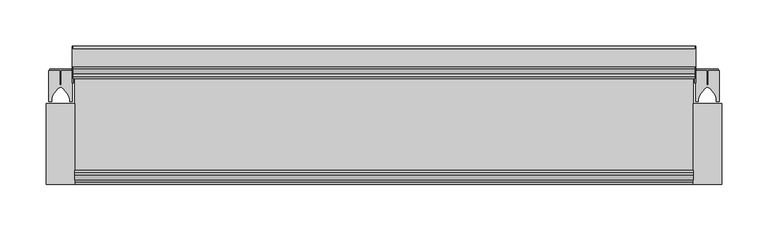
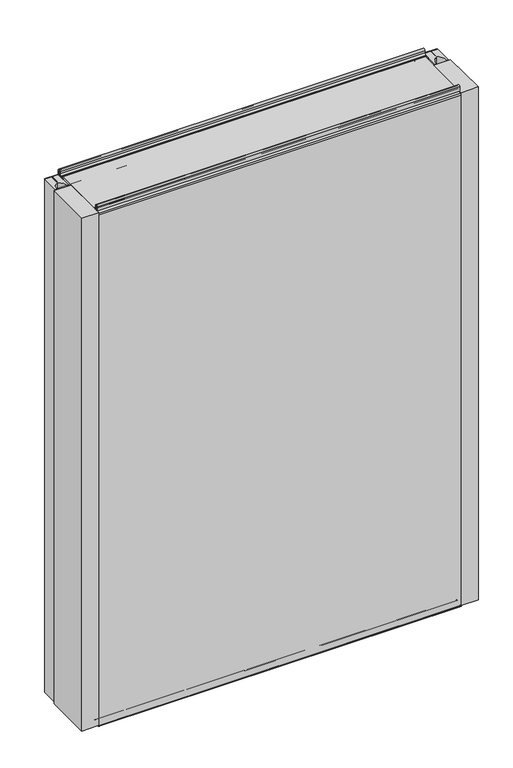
"""IFC4 building model written with IfcOpenShell, lengths in millimetres: plate geometry, Fronttop : Fronttop 150/1000."""

from ifc_helpers import new_model, si_unit, point, frame, frame_2d, origin, origin_with_axes, place, context, project, spatial, polyline, circle_curve, trimmed, segment, composite_curve, outline, extrude, source, transform, mapped, element, save
from ifc_brep_helpers import plane_surface, cylinder_surface, revolved_surface, advanced_brep


def plate_193a82d2(model_context):
    return source(origin(), model_context, "Body", "SolidModel", [
        advanced_brep(
        [(-336.5, 124.0, 1008.0), (-336.5, 121.0, 1008.0), (-336.5, 121.0, 1004.0), (-336.5, 117.0, 1000.0), (-336.5, 115.0, 1000.0), (-336.5, 115.0, 1001.0), (-336.5, 117.0, 1001.0), (-336.5, 120.0, 1004.0), (-336.5, 120.0, 1008.0), (-336.5, 125.0, 1008.0), (-336.5, 125.0, 1000.0), (-336.5, 124.0, 1000.0), (336.5, 125.0, 1008.0), (336.5, 120.0, 1008.0), (336.5, 120.0, 1004.0), (336.5, 117.0, 1001.0), (336.5, 115.0, 1001.0), (336.5, 115.0, 1000.0), (336.5, 117.0, 1000.0), (336.5, 121.0, 1004.0), (336.5, 121.0, 1008.0), (336.5, 124.0, 1008.0), (336.5, 124.0, 1000.0), (336.5, 125.0, 1000.0), (-336.5, 117.0, 2.0), (336.5, 117.0, 2.0), (336.5, 115.0, 2.0), (-336.5, 115.0, 2.0), (-336.5, 119.0, 4.0), (336.5, 119.0, 4.0), (-336.5, 119.0, 8.0), (336.5, 119.0, 8.0), (-336.5, 126.0, 8.0), (336.5, 126.0, 8.0), (-336.5, 126.0, 0.0), (336.5, 126.0, 0.0), (-336.5, 129.0, -3.0), (336.5, 129.0, -3.0), (-336.5, 125.0, -3.0), (-337.5, 125.0, -3.0), (-337.5, 147.0, -3.0), (-336.5, 147.0, -3.0), (336.5, 147.0, -3.0), (337.5, 147.0, -3.0), (337.5, 125.0, -3.0), (336.5, 125.0, -3.0), (-336.5, 150.0, 0.0), (336.5, 150.0, 0.0), (-337.5, 150.0, 0.0), (-337.5, 150.0, 969.0), (-336.5, 150.0, 969.0), (336.5, 150.0, 969.0), (337.5, 150.0, 969.0), (337.5, 150.0, 0.0), (-336.5, 147.0, 972.0), (336.5, 147.0, 972.0), (-337.5, 147.0, 972.0), (-337.5, 128.0, 972.0), (-336.5, 128.0, 972.0), (336.5, 128.0, 972.0), (337.5, 128.0, 972.0), (337.5, 147.0, 972.0), (-336.5, 125.0, 975.0), (336.5, 125.0, 975.0), (-337.5, 125.0, 975.0), (-337.5, 125.0, 1000.0), (337.5, 125.0, 1000.0), (337.5, 125.0, 975.0), (-336.5, 124.0, 975.0), (336.5, 124.0, 975.0), (-336.5, 128.0, 971.0), (336.5, 128.0, 971.0), (-336.5, 147.0, 971.0), (336.5, 147.0, 971.0), (-336.5, 149.0, 969.0), (336.5, 149.0, 969.0), (-336.5, 149.0, 0.0), (336.5, 149.0, 0.0), (-336.5, 147.0, -2.0), (336.5, 147.0, -2.0), (-336.5, 129.0, -2.0), (336.5, 129.0, -2.0), (-336.5, 127.0, 0.0), (336.5, 127.0, 0.0), (-336.5, 127.0, 8.0), (336.5, 127.0, 8.0), (-336.5, 118.0, 8.0), (336.5, 118.0, 8.0), (-336.5, 118.0, 4.0), (336.5, 118.0, 4.0), (-336.5, 117.0, 3.0), (336.5, 117.0, 3.0), (-336.5, 115.0, 3.0), (336.5, 115.0, 3.0), (337.5, 110.0, 1000.0), (337.5, 110.0, 0.0), (337.5, 125.0, 0.0), (336.5, 125.0, 0.0), (336.5, 110.0, 0.0), (336.5, 110.0, 1000.0), (-337.5, 125.0, 0.0), (-337.5, 110.0, 0.0), (-337.5, 110.0, 1000.0), (-336.5, 110.0, 1000.0), (-336.5, 110.0, 0.0), (-336.5, 125.0, 0.0)],
        [
            (0, 1, circle_curve(frame((-336.5, 122.5, 1008.0), z_axis=(1.0, 0.0, 0.0), x_axis=(0.0, -1.0, 0.0)), 1.5)),
            (1, 2),
            (2, 3, circle_curve(frame((-336.5, 117.0, 1004.0), z_axis=(-1.0, 0.0, 0.0), x_axis=(0.0, -1.0, 0.0)), 4.0)),
            (3, 4),
            (4, 5),
            (5, 6),
            (6, 7, circle_curve(frame((-336.5, 117.0, 1004.0), z_axis=(1.0, 0.0, 0.0), x_axis=(0.0, -1.0, 0.0)), 3.0)),
            (7, 8),
            (8, 9, circle_curve(frame((-336.5, 122.5, 1008.0), z_axis=(-1.0, 0.0, 0.0), x_axis=(0.0, -1.0, 0.0)), 2.5)),
            (9, 10),
            (10, 11),
            (11, 0),
            (12, 13, circle_curve(frame((336.5, 122.5, 1008.0), z_axis=(1.0, 0.0, 0.0), x_axis=(0.0, -1.0, 0.0)), 2.5)),
            (13, 14),
            (14, 15, circle_curve(frame((336.5, 117.0, 1004.0), z_axis=(-1.0, 0.0, 0.0), x_axis=(0.0, -1.0, 0.0)), 3.0)),
            (15, 16),
            (16, 17),
            (17, 18),
            (18, 19, circle_curve(frame((336.5, 117.0, 1004.0), z_axis=(1.0, 0.0, 0.0), x_axis=(0.0, -1.0, 0.0)), 4.0)),
            (19, 20),
            (20, 21, circle_curve(frame((336.5, 122.5, 1008.0), z_axis=(-1.0, 0.0, 0.0), x_axis=(0.0, -1.0, 0.0)), 1.5)),
            (21, 22),
            (22, 23),
            (23, 12),
            (24, 25),
            (25, 26),
            (26, 27),
            (27, 24),
            (24, 28, circle_curve(frame((-336.5, 117.0, 4.0), z_axis=(1.0, 0.0, 0.0), x_axis=(0.0, -1.0, 0.0)), 2.0)),
            (28, 29),
            (29, 25, circle_curve(frame((336.5, 117.0, 4.0), z_axis=(-1.0, 0.0, 0.0), x_axis=(0.0, -1.0, 0.0)), 2.0)),
            (28, 30),
            (30, 31),
            (31, 29),
            (30, 32, circle_curve(frame((-336.5, 122.5, 8.0), z_axis=(-1.0, 0.0, 0.0), x_axis=(0.0, -1.0, 0.0)), 3.5)),
            (32, 33),
            (33, 31, circle_curve(frame((336.5, 122.5, 8.0), z_axis=(1.0, 0.0, 0.0), x_axis=(0.0, -1.0, 0.0)), 3.5)),
            (32, 34),
            (34, 35),
            (35, 33),
            (34, 36, circle_curve(frame((-336.5, 129.0, 0.0), z_axis=(1.0, 0.0, 0.0), x_axis=(0.0, -1.0, 0.0)), 3.0)),
            (36, 37),
            (37, 35, circle_curve(frame((336.5, 129.0, 0.0), z_axis=(-1.0, 0.0, 0.0), x_axis=(0.0, -1.0, 0.0)), 3.0)),
            (36, 38),
            (38, 39),
            (39, 40),
            (40, 41),
            (41, 42),
            (42, 43),
            (43, 44),
            (44, 45),
            (45, 37),
            (41, 46, circle_curve(frame((-336.5, 147.0, 0.0), z_axis=(1.0, 0.0, 0.0), x_axis=(0.0, -1.0, 0.0)), 3.0)),
            (46, 47),
            (47, 42, circle_curve(frame((336.5, 147.0, 0.0), z_axis=(-1.0, 0.0, 0.0), x_axis=(0.0, -1.0, 0.0)), 3.0)),
            (46, 48),
            (48, 49),
            (49, 50),
            (50, 51),
            (51, 52),
            (52, 53),
            (53, 47),
            (50, 54, circle_curve(frame((-336.5, 147.0, 969.0), z_axis=(1.0, 0.0, 0.0), x_axis=(0.0, -1.0, 0.0)), 3.0)),
            (54, 55),
            (55, 51, circle_curve(frame((336.5, 147.0, 969.0), z_axis=(-1.0, 0.0, 0.0), x_axis=(0.0, -1.0, 0.0)), 3.0)),
            (54, 56),
            (56, 57),
            (57, 58),
            (58, 59),
            (59, 60),
            (60, 61),
            (61, 55),
            (58, 62, circle_curve(frame((-336.5, 128.0, 975.0), z_axis=(-1.0, 0.0, 0.0), x_axis=(0.0, -1.0, 0.0)), 3.0)),
            (62, 63),
            (63, 59, circle_curve(frame((336.5, 128.0, 975.0), z_axis=(1.0, 0.0, 0.0), x_axis=(0.0, -1.0, 0.0)), 3.0)),
            (62, 64),
            (64, 65),
            (65, 10),
            (9, 12),
            (23, 66),
            (66, 67),
            (67, 63),
            (8, 13),
            (7, 14),
            (6, 15),
            (5, 16),
            (4, 17),
            (4, 3),
            (3, 18),
            (18, 17),
            (2, 19),
            (1, 20),
            (0, 21),
            (11, 68),
            (68, 69),
            (69, 22),
            (68, 70, circle_curve(frame((-336.5, 128.0, 975.0), z_axis=(1.0, 0.0, 0.0), x_axis=(0.0, -1.0, 0.0)), 4.0)),
            (70, 71),
            (71, 69, circle_curve(frame((336.5, 128.0, 975.0), z_axis=(-1.0, 0.0, 0.0), x_axis=(0.0, -1.0, 0.0)), 4.0)),
            (70, 72),
            (72, 73),
            (73, 71),
            (72, 74, circle_curve(frame((-336.5, 147.0, 969.0), z_axis=(-1.0, 0.0, 0.0), x_axis=(0.0, -1.0, 0.0)), 2.0)),
            (74, 75),
            (75, 73, circle_curve(frame((336.5, 147.0, 969.0), z_axis=(1.0, 0.0, 0.0), x_axis=(0.0, -1.0, 0.0)), 2.0)),
            (74, 76),
            (76, 77),
            (77, 75),
            (76, 78, circle_curve(frame((-336.5, 147.0, 0.0), z_axis=(-1.0, 0.0, 0.0), x_axis=(0.0, -1.0, 0.0)), 2.0)),
            (78, 79),
            (79, 77, circle_curve(frame((336.5, 147.0, 0.0), z_axis=(1.0, 0.0, 0.0), x_axis=(0.0, -1.0, 0.0)), 2.0)),
            (78, 80),
            (80, 81),
            (81, 79),
            (80, 82, circle_curve(frame((-336.5, 129.0, 0.0), z_axis=(-1.0, 0.0, 0.0), x_axis=(0.0, -1.0, 0.0)), 2.0)),
            (82, 83),
            (83, 81, circle_curve(frame((336.5, 129.0, 0.0), z_axis=(1.0, 0.0, 0.0), x_axis=(0.0, -1.0, 0.0)), 2.0)),
            (82, 84),
            (84, 85),
            (85, 83),
            (84, 86, circle_curve(frame((-336.5, 122.5, 8.0), z_axis=(1.0, 0.0, 0.0), x_axis=(0.0, -1.0, 0.0)), 4.5)),
            (86, 87),
            (87, 85, circle_curve(frame((336.5, 122.5, 8.0), z_axis=(-1.0, 0.0, 0.0), x_axis=(0.0, -1.0, 0.0)), 4.5)),
            (86, 88),
            (88, 89),
            (89, 87),
            (88, 90, circle_curve(frame((-336.5, 117.0, 4.0), z_axis=(-1.0, 0.0, 0.0), x_axis=(0.0, -1.0, 0.0)), 1.0)),
            (90, 91),
            (91, 89, circle_curve(frame((336.5, 117.0, 4.0), z_axis=(1.0, 0.0, 0.0), x_axis=(0.0, -1.0, 0.0)), 1.0)),
            (90, 92),
            (92, 93),
            (93, 91),
            (26, 93),
            (92, 27),
            (66, 94),
            (94, 95),
            (95, 96),
            (96, 44),
            (43, 53, circle_curve(frame((337.5, 147.0, 0.0), z_axis=(1.0, 0.0, 0.0), x_axis=(0.0, 1.0, 0.0)), 3.0)),
            (52, 61, circle_curve(frame((337.5, 147.0, 969.0), z_axis=(1.0, 0.0, 0.0), x_axis=(0.0, 1.0, 0.0)), 3.0)),
            (60, 67, circle_curve(frame((337.5, 128.0, 975.0), z_axis=(-1.0, 0.0, 0.0), x_axis=(0.0, 1.0, 0.0)), 3.0)),
            (45, 97),
            (97, 98),
            (98, 99),
            (99, 17),
            (18, 22),
            (99, 94),
            (98, 95),
            (97, 96),
            (64, 57, circle_curve(frame((-337.5, 128.0, 975.0), z_axis=(1.0, 0.0, 0.0), x_axis=(0.0, 1.0, 0.0)), 3.0)),
            (56, 49, circle_curve(frame((-337.5, 147.0, 969.0), z_axis=(-1.0, 0.0, 0.0), x_axis=(0.0, 1.0, 0.0)), 3.0)),
            (48, 40, circle_curve(frame((-337.5, 147.0, 0.0), z_axis=(-1.0, 0.0, 0.0), x_axis=(0.0, 1.0, 0.0)), 3.0)),
            (39, 100),
            (100, 101),
            (101, 102),
            (102, 65),
            (103, 104),
            (104, 105),
            (105, 38),
            (11, 3),
            (4, 103),
            (102, 103),
            (101, 104),
            (100, 105),
        ],
        [
            plane_surface(frame((-336.5, 0.0, 0.0), z_axis=(-1.0, 0.0, 0.0), x_axis=(0.0, 0.0, 1.0))),
            plane_surface(frame((336.5, 0.0, 0.0), z_axis=(1.0, 0.0, 0.0), x_axis=(0.0, 0.0, 1.0))),
            plane_surface(frame((-336.5, 117.0, 2.0), z_axis=(0.0, 0.0, -1.0), x_axis=(1.0, 0.0, 0.0))),
            cylinder_surface(frame((-336.5, 117.0, 4.0), z_axis=(-1.0, 0.0, 0.0), x_axis=(0.0, -1.0, 0.0)), 2.0),
            plane_surface(frame((-336.5, 119.0, 8.0), z_axis=(0.0, 1.0, 0.0), x_axis=(1.0, 0.0, 0.0))),
            revolved_surface(polyline([(336.5, 119.0, 8.0), (-336.5, 119.0, 8.0)]), (-336.5, 122.5, 8.0), (1.0, 0.0, 0.0)),
            plane_surface(frame((-336.5, 126.0, 0.0), z_axis=(0.0, -1.0, 0.0), x_axis=(1.0, 0.0, 0.0))),
            cylinder_surface(frame((-336.5, 129.0, 0.0), z_axis=(-1.0, 0.0, 0.0), x_axis=(0.0, -1.0, 0.0)), 3.0),
            plane_surface(frame((-336.5, 147.0, -3.0), z_axis=(0.0, 0.0, -1.0), x_axis=(1.0, 0.0, 0.0))),
            cylinder_surface(frame((-336.5, 147.0, 0.0), z_axis=(-1.0, 0.0, 0.0), x_axis=(0.0, -1.0, 0.0)), 3.0),
            plane_surface(frame((-336.5, 150.0, 969.0), z_axis=(0.0, 1.0, 0.0), x_axis=(1.0, 0.0, 0.0))),
            cylinder_surface(frame((-336.5, 147.0, 969.0), z_axis=(-1.0, 0.0, 0.0), x_axis=(0.0, -1.0, 0.0)), 3.0),
            plane_surface(frame((-336.5, 128.0, 972.0), z_axis=(0.0, 0.0, 1.0), x_axis=(1.0, 0.0, 0.0))),
            revolved_surface(polyline([(336.5, 125.0, 975.0), (-336.5, 125.0, 975.0)]), (-336.5, 128.0, 975.0), (1.0, 0.0, 0.0)),
            plane_surface(frame((-336.5, 125.0, 1008.0), z_axis=(0.0, 1.0, 0.0), x_axis=(1.0, 0.0, 0.0))),
            cylinder_surface(frame((-336.5, 122.5, 1008.0), z_axis=(-1.0, 0.0, 0.0), x_axis=(0.0, -1.0, 0.0)), 2.5),
            plane_surface(frame((-336.5, 120.0, 1004.0), z_axis=(0.0, -1.0, 0.0), x_axis=(1.0, 0.0, 0.0))),
            revolved_surface(polyline([(336.5, 114.0, 1004.0), (-336.5, 114.0, 1004.0)]), (-336.5, 117.0, 1004.0), (1.0, 0.0, 0.0)),
            plane_surface(frame((-336.5, 115.0, 1001.0), z_axis=(0.0, 0.0, 1.0), x_axis=(1.0, 0.0, 0.0))),
            plane_surface(frame((-336.5, 115.0, 1000.0), z_axis=(0.0, -1.0, 0.0), x_axis=(1.0, 0.0, 0.0))),
            plane_surface(frame((-336.5, 117.0, 1000.0), z_axis=(0.0, 0.0, -1.0), x_axis=(1.0, 0.0, 0.0))),
            cylinder_surface(frame((-336.5, 117.0, 1004.0), z_axis=(-1.0, 0.0, 0.0), x_axis=(0.0, -1.0, 0.0)), 4.0),
            plane_surface(frame((-336.5, 121.0, 1008.0), z_axis=(0.0, 1.0, 0.0), x_axis=(1.0, 0.0, 0.0))),
            revolved_surface(polyline([(336.5, 121.0, 1008.0), (-336.5, 121.0, 1008.0)]), (-336.5, 122.5, 1008.0), (1.0, 0.0, 0.0)),
            plane_surface(frame((-336.5, 124.0, 975.0), z_axis=(0.0, -1.0, 0.0), x_axis=(1.0, 0.0, 0.0))),
            cylinder_surface(frame((-336.5, 128.0, 975.0), z_axis=(-1.0, 0.0, 0.0), x_axis=(0.0, -1.0, 0.0)), 4.0),
            plane_surface(frame((-336.5, 147.0, 971.0), z_axis=(0.0, 0.0, -1.0), x_axis=(1.0, 0.0, 0.0))),
            revolved_surface(polyline([(336.5, 145.0, 969.0), (-336.5, 145.0, 969.0)]), (-336.5, 147.0, 969.0), (1.0, 0.0, 0.0)),
            plane_surface(frame((-336.5, 149.0, 0.0), z_axis=(0.0, -1.0, 0.0), x_axis=(1.0, 0.0, 0.0))),
            revolved_surface(polyline([(336.5, 145.0, 0.0), (-336.5, 145.0, 0.0)]), (-336.5, 147.0, 0.0), (1.0, 0.0, 0.0)),
            plane_surface(frame((-336.5, 129.0, -2.0), z_axis=(0.0, 0.0, 1.0), x_axis=(1.0, 0.0, 0.0))),
            revolved_surface(polyline([(336.5, 127.0, 0.0), (-336.5, 127.0, 0.0)]), (-336.5, 129.0, 0.0), (1.0, 0.0, 0.0)),
            plane_surface(frame((-336.5, 127.0, 8.0), z_axis=(0.0, 1.0, 0.0), x_axis=(1.0, 0.0, 0.0))),
            cylinder_surface(frame((-336.5, 122.5, 8.0), z_axis=(-1.0, 0.0, 0.0), x_axis=(0.0, -1.0, 0.0)), 4.5),
            plane_surface(frame((-336.5, 118.0, 4.0), z_axis=(0.0, -1.0, 0.0), x_axis=(1.0, 0.0, 0.0))),
            revolved_surface(polyline([(336.5, 116.0, 4.0), (-336.5, 116.0, 4.0)]), (-336.5, 117.0, 4.0), (1.0, 0.0, 0.0)),
            plane_surface(frame((-336.5, 115.0, 3.0), z_axis=(0.0, 0.0, 1.0), x_axis=(1.0, 0.0, 0.0))),
            plane_surface(frame((-336.5, 115.0, 2.0), z_axis=(0.0, -1.0, 0.0), x_axis=(1.0, 0.0, 0.0))),
            plane_surface(frame((337.5, 125.0, 1000.0), z_axis=(1.0, 0.0, 0.0), x_axis=(0.0, -1.0, 0.0))),
            plane_surface(frame((336.5, 125.0, 1000.0), z_axis=(-1.0, 0.0, 0.0), x_axis=(0.0, 1.0, 0.0))),
            plane_surface(frame((337.5, 125.0, 1000.0), z_axis=(0.0, 0.0, 1.0), x_axis=(-1.0, 0.0, 0.0))),
            plane_surface(frame((337.5, 110.0, 1000.0), z_axis=(0.0, -1.0, 0.0), x_axis=(-1.0, 0.0, 0.0))),
            plane_surface(frame((337.5, 110.0, 0.0), z_axis=(0.0, 0.0, -1.0), x_axis=(-1.0, 0.0, 0.0))),
            cylinder_surface(frame((336.5, 147.0, 0.0), z_axis=(1.0, 0.0, 0.0), x_axis=(0.0, 1.0, 0.0)), 3.0),
            cylinder_surface(frame((336.5, 147.0, 969.0), z_axis=(1.0, 0.0, 0.0), x_axis=(0.0, 1.0, 0.0)), 3.0),
            revolved_surface(polyline([(336.5, 131.0, 975.0), (337.5, 131.0, 975.0)]), (336.5, 128.0, 975.0), (-1.0, 0.0, 0.0)),
            plane_surface(frame((-337.5, 125.0, 1000.0), z_axis=(-1.0, 0.0, 0.0), x_axis=(0.0, 1.0, 0.0))),
            plane_surface(frame((-336.5, 125.0, 1000.0), z_axis=(1.0, 0.0, 0.0), x_axis=(0.0, -1.0, 0.0))),
            plane_surface(frame((-336.5, 125.0, 1000.0), z_axis=(0.0, 0.0, 1.0), x_axis=(-1.0, 0.0, 0.0))),
            plane_surface(frame((-336.5, 110.0, 1000.0), z_axis=(0.0, -1.0, 0.0), x_axis=(-1.0, 0.0, 0.0))),
            plane_surface(frame((-336.5, 110.0, 0.0), z_axis=(0.0, 0.0, -1.0), x_axis=(-1.0, 0.0, 0.0))),
            cylinder_surface(frame((-337.5, 147.0, 0.0), z_axis=(1.0, 0.0, 0.0), x_axis=(0.0, 1.0, 0.0)), 3.0),
            cylinder_surface(frame((-337.5, 147.0, 969.0), z_axis=(1.0, 0.0, 0.0), x_axis=(0.0, 1.0, 0.0)), 3.0),
            revolved_surface(polyline([(-337.5, 131.0, 975.0), (-336.5, 131.0, 975.0)]), (-337.5, 128.0, 975.0), (-1.0, 0.0, 0.0)),
            plane_surface(frame((337.5, 125.0, 0.0), z_axis=(0.0, -1.0, 0.0), x_axis=(-1.0, 0.0, 0.0))),
            plane_surface(frame((-336.5, 125.0, 0.0), z_axis=(0.0, -1.0, 0.0), x_axis=(-1.0, 0.0, 0.0))),
        ],
        [
            (0, [[1, 2, 3, 4, 5, 6, 7, 8, 9, 10, 11, 12]]),
            (1, [[13, 14, 15, 16, 17, 18, 19, 20, 21, 22, 23, 24]]),
            (2, [[25, 26, 27, 28]]),
            (3, [[-25, 29, 30, 31]]),
            (4, [[-30, 32, 33, 34]]),
            (5, [[-33, 35, 36, 37]]),
            (6, [[-36, 38, 39, 40]]),
            (7, [[-39, 41, 42, 43]]),
            (8, [[-42, 44, 45, 46, 47, 48, 49, 50, 51, 52]]),
            (9, [[-48, 53, 54, 55]]),
            (10, [[-54, 56, 57, 58, 59, 60, 61, 62]]),
            (11, [[-59, 63, 64, 65]]),
            (12, [[-64, 66, 67, 68, 69, 70, 71, 72]]),
            (13, [[-69, 73, 74, 75]]),
            (14, [[-74, 76, 77, 78, -10, 79, -24, 80, 81, 82]]),
            (15, [[-9, 83, -13, -79]]),
            (16, [[-8, 84, -14, -83]]),
            (17, [[-7, 85, -15, -84]]),
            (18, [[-6, 86, -16, -85]]),
            (19, [[-5, 87, -17, -86]]),
            (20, [[-87, 88, 89, 90]]),
            (21, [[-3, 91, -19, -89]]),
            (22, [[-2, 92, -20, -91]]),
            (23, [[-1, 93, -21, -92]]),
            (24, [[-93, -12, 94, 95, 96, -22]]),
            (25, [[-95, 97, 98, 99]]),
            (26, [[-98, 100, 101, 102]]),
            (27, [[-101, 103, 104, 105]]),
            (28, [[-104, 106, 107, 108]]),
            (29, [[-107, 109, 110, 111]]),
            (30, [[-110, 112, 113, 114]]),
            (31, [[-113, 115, 116, 117]]),
            (32, [[-116, 118, 119, 120]]),
            (33, [[-119, 121, 122, 123]]),
            (34, [[-122, 124, 125, 126]]),
            (35, [[-125, 127, 128, 129]]),
            (36, [[-128, 130, 131, 132]]),
            (37, [[-27, 133, -131, 134]]),
            (38, [[135, 136, 137, 138, -50, 139, -61, 140, -71, 141, -81]]),
            (39, [[142, 143, 144, 145, -90, 146, -96, -99, -102, -105, -108, -111, -114, -117, -120, -123, -126, -129, -132, -133, -26, -31, -34, -37, -40, -43, -52]]),
            (40, [[-135, -80, -23, -146, -18, -145, 147]]),
            (41, [[-136, -147, -144, 148]]),
            (42, [[-137, -148, -143, 149]]),
            (43, [[-139, -49, -55, -62]]),
            (44, [[-140, -60, -65, -72]]),
            (45, [[-141, -70, -75, -82]]),
            (46, [[-77, 150, -67, 151, -57, 152, -46, 153, 154, 155, 156]]),
            (47, [[157, 158, 159, -44, -41, -38, -35, -32, -29, -28, -134, -130, -127, -124, -121, -118, -115, -112, -109, -106, -103, -100, -97, -94, 160, -88, 161]]),
            (48, [[-156, 162, -161, -4, -160, -11, -78]]),
            (49, [[-155, 163, -157, -162]]),
            (50, [[-154, 164, -158, -163]]),
            (51, [[-152, -56, -53, -47]]),
            (52, [[-151, -66, -63, -58]]),
            (53, [[-150, -76, -73, -68]]),
            (54, [[-138, -149, -142, -51]]),
            (55, [[-153, -45, -159, -164]]),
        ],
    ),
        extrude(outline(composite_curve([segment(polyline([(-362.5001545, 123.5), (-350.75, 123.5), (-350.75, 107.5), (-349.25, 107.5), (-349.25, 123.5), (-337.4998455, 123.5), (-337.4998455, 90.0), (-340.25, 90.0), (-340.25, 92.5)]), True, "CONTINUOUS"), segment(trimmed(circle_curve(frame_2d((-358.0338021, 89.3183984)), 18.0661619), [point((-340.25, 92.5))], [point((-350.0, 105.5))], True, "CARTESIAN"), True, "CONTINUOUS"), segment(trimmed(circle_curve(frame_2d((-341.9661979, 89.3183984)), 18.0661619), [point((-350.0, 105.5))], [point((-359.75, 92.5))], True, "CARTESIAN"), True, "CONTINUOUS"), segment(polyline([(-359.75, 92.5), (-359.75, 90.0), (-362.5001545, 90.0), (-362.5001545, 123.5)]), True, "CONTINUOUS")], self_intersect=False)), origin_with_axes(), (0.0, 0.0, 1.0), 1000.0),
        extrude(outline(polyline([(-334.5, 0.0), (-365.5, 0.0), (-365.5, 88.0), (-334.5, 88.0), (-334.5, 0.0)])), origin_with_axes(), (0.0, 0.0, 1.0), 1000.0),
        extrude(outline(polyline([(-361.5051154, 125.0), (-338.4948846, 125.0), (-338.4948846, 123.5), (-349.3497504, 123.5), (-349.3497504, 109.0759655), (-350.65, 109.0759655), (-350.65, 123.5), (-361.5051154, 123.5), (-361.5051154, 125.0)])), origin_with_axes(), (0.0, 0.0, 1.0), 1000.0),
        extrude(outline(composite_curve([segment(polyline([(337.4998455, 123.5), (349.25, 123.5), (349.25, 107.5), (350.75, 107.5), (350.75, 123.5), (362.5001545, 123.5), (362.5001545, 90.0), (359.75, 90.0), (359.75, 92.5)]), True, "CONTINUOUS"), segment(trimmed(circle_curve(frame_2d((341.9661979, 89.3183984)), 18.0661619), [point((359.75, 92.5))], [point((350.0, 105.5))], True, "CARTESIAN"), True, "CONTINUOUS"), segment(trimmed(circle_curve(frame_2d((358.0338021, 89.3183984)), 18.0661619), [point((350.0, 105.5))], [point((340.25, 92.5))], True, "CARTESIAN"), True, "CONTINUOUS"), segment(polyline([(340.25, 92.5), (340.25, 90.0), (337.4998455, 90.0), (337.4998455, 123.5)]), True, "CONTINUOUS")], self_intersect=False)), origin_with_axes(), (0.0, 0.0, 1.0), 1000.0),
        extrude(outline(polyline([(365.5, 0.0), (334.5, 0.0), (334.5, 88.0), (365.5, 88.0), (365.5, 0.0)])), origin_with_axes(), (0.0, 0.0, 1.0), 1000.0),
        extrude(outline(polyline([(338.4948846, 125.0), (361.5051154, 125.0), (361.5051154, 123.5), (350.6502496, 123.5), (350.6502496, 109.0759655), (349.35, 109.0759655), (349.35, 123.5), (338.4948846, 123.5), (338.4948846, 125.0)])), origin_with_axes(), (0.0, 0.0, 1.0), 1000.0),
        advanced_brep(
        [(-334.5, 13.0, 1001.0), (-334.5, 15.0, 1001.0), (-334.5, 15.0, 1000.0), (-334.5, 13.0, 1000.0), (-334.5, 9.0, 1004.0), (-334.5, 9.0, 1008.0), (-334.5, 6.0, 1008.0), (-334.5, 6.0, 999.5), (-334.5, 2.1134897, 996.0214069), (-334.5, 1.0, 995.0), (-334.5, 1.0, -0.5), (-334.5, 3.0, -0.5), (-334.5, 3.0, 8.0), (-334.5, 12.0, 8.0), (-334.5, 12.0, 4.0), (-334.5, 13.0, 3.0), (-334.5, 15.0, 3.0), (-334.5, 15.0, 2.0), (-334.5, 13.0, 2.0), (-334.5, 11.0, 4.0), (-334.5, 11.0, 8.0), (-334.5, 4.0, 8.0), (-334.5, 4.0, -0.5), (-334.5, 0.0, -0.5), (-334.5, 0.0, 995.0), (-334.5, 2.220863, 996.9877675), (-334.5, 5.0, 999.5), (-334.5, 5.0, 1008.0), (-334.5, 10.0, 1008.0), (-334.5, 10.0, 1004.0), (334.5, 13.0, 1001.0), (334.5, 10.0, 1004.0), (334.5, 10.0, 1008.0), (334.5, 5.0, 1008.0), (334.5, 5.0, 999.5), (334.5, 2.2239212, 997.0152907), (334.5, 0.0, 995.0), (334.5, 0.0, -0.5), (334.5, 4.0, -0.5), (334.5, 4.0, 8.0), (334.5, 11.0, 8.0), (334.5, 11.0, 4.0), (334.5, 13.0, 2.0), (334.5, 15.0, 2.0), (334.5, 15.0, 3.0), (334.5, 13.0, 3.0), (334.5, 12.0, 4.0), (334.5, 12.0, 8.0), (334.5, 3.0, 8.0), (334.5, 3.0, -0.5), (334.5, 1.0, -0.5), (334.5, 1.0, 995.0), (334.5, 2.1104315, 995.9938837), (334.5, 6.0, 999.5), (334.5, 6.0, 1008.0), (334.5, 9.0, 1008.0), (334.5, 9.0, 1004.0), (334.5, 13.0, 1000.0), (334.5, 15.0, 1000.0), (334.5, 15.0, 1001.0)],
        [
            (0, 1),
            (1, 2),
            (2, 3),
            (3, 4, circle_curve(frame((-334.5, 13.0, 1004.0), z_axis=(-1.0, 0.0, 0.0), x_axis=(0.0, -1.0, 0.0)), 4.0)),
            (4, 5),
            (5, 6, circle_curve(frame((-334.5, 7.5, 1008.0), z_axis=(1.0, 0.0, 0.0), x_axis=(0.0, -1.0, 0.0)), 1.5)),
            (6, 7),
            (7, 8, circle_curve(frame((-334.5, 2.5, 999.5), z_axis=(-1.0, 0.0, 0.0), x_axis=(0.0, -1.0, 0.0)), 3.5)),
            (8, 9, circle_curve(frame((-334.5, 2.0, 995.0), z_axis=(1.0, 0.0, 0.0), x_axis=(0.0, -1.0, 0.0)), 1.0)),
            (9, 10),
            (10, 11, circle_curve(frame((-334.5, 2.0, -0.5), z_axis=(1.0, 0.0, 0.0), x_axis=(0.0, -1.0, 0.0)), 1.0)),
            (11, 12),
            (12, 13, circle_curve(frame((-334.5, 7.5, 8.0), z_axis=(-1.0, 0.0, 0.0), x_axis=(0.0, -1.0, 0.0)), 4.5)),
            (13, 14),
            (14, 15, circle_curve(frame((-334.5, 13.0, 4.0), z_axis=(1.0, 0.0, 0.0), x_axis=(0.0, -1.0, 0.0)), 1.0)),
            (15, 16),
            (16, 17),
            (17, 18),
            (18, 19, circle_curve(frame((-334.5, 13.0, 4.0), z_axis=(-1.0, 0.0, 0.0), x_axis=(0.0, -1.0, 0.0)), 2.0)),
            (19, 20),
            (20, 21, circle_curve(frame((-334.5, 7.5, 8.0), z_axis=(1.0, 0.0, 0.0), x_axis=(0.0, -1.0, 0.0)), 3.5)),
            (21, 22),
            (22, 23, circle_curve(frame((-334.5, 2.0, -0.5), z_axis=(-1.0, 0.0, 0.0), x_axis=(0.0, -1.0, 0.0)), 2.0)),
            (23, 24),
            (24, 25, circle_curve(frame((-334.5, 2.0, 995.0), z_axis=(-1.0, 0.0, 0.0), x_axis=(0.0, -1.0, 0.0)), 2.0)),
            (25, 26, circle_curve(frame((-334.5, 2.5, 999.5), z_axis=(1.0, 0.0, 0.0), x_axis=(0.0, -1.0, 0.0)), 2.5)),
            (26, 27),
            (27, 28, circle_curve(frame((-334.5, 7.5, 1008.0), z_axis=(-1.0, 0.0, 0.0), x_axis=(0.0, -1.0, 0.0)), 2.5)),
            (28, 29),
            (29, 0, circle_curve(frame((-334.5, 13.0, 1004.0), z_axis=(1.0, 0.0, 0.0), x_axis=(0.0, -1.0, 0.0)), 3.0)),
            (30, 31, circle_curve(frame((334.5, 13.0, 1004.0), z_axis=(-1.0, 0.0, 0.0), x_axis=(0.0, -1.0, 0.0)), 3.0)),
            (31, 32),
            (32, 33, circle_curve(frame((334.5, 7.5, 1008.0), z_axis=(1.0, 0.0, 0.0), x_axis=(0.0, -1.0, 0.0)), 2.5)),
            (33, 34),
            (34, 35, circle_curve(frame((334.5, 2.5, 999.5), z_axis=(-1.0, 0.0, 0.0), x_axis=(0.0, -1.0, 0.0)), 2.5)),
            (35, 36, circle_curve(frame((334.5, 2.0, 995.0), z_axis=(1.0, 0.0, 0.0), x_axis=(0.0, -1.0, 0.0)), 2.0)),
            (36, 37),
            (37, 38, circle_curve(frame((334.5, 2.0, -0.5), z_axis=(1.0, 0.0, 0.0), x_axis=(0.0, -1.0, 0.0)), 2.0)),
            (38, 39),
            (39, 40, circle_curve(frame((334.5, 7.5, 8.0), z_axis=(-1.0, 0.0, 0.0), x_axis=(0.0, -1.0, 0.0)), 3.5)),
            (40, 41),
            (41, 42, circle_curve(frame((334.5, 13.0, 4.0), z_axis=(1.0, 0.0, 0.0), x_axis=(0.0, -1.0, 0.0)), 2.0)),
            (42, 43),
            (43, 44),
            (44, 45),
            (45, 46, circle_curve(frame((334.5, 13.0, 4.0), z_axis=(-1.0, 0.0, 0.0), x_axis=(0.0, -1.0, 0.0)), 1.0)),
            (46, 47),
            (47, 48, circle_curve(frame((334.5, 7.5, 8.0), z_axis=(1.0, 0.0, 0.0), x_axis=(0.0, -1.0, 0.0)), 4.5)),
            (48, 49),
            (49, 50, circle_curve(frame((334.5, 2.0, -0.5), z_axis=(-1.0, 0.0, 0.0), x_axis=(0.0, -1.0, 0.0)), 1.0)),
            (50, 51),
            (51, 52, circle_curve(frame((334.5, 2.0, 995.0), z_axis=(-1.0, 0.0, 0.0), x_axis=(0.0, -1.0, 0.0)), 1.0)),
            (52, 53, circle_curve(frame((334.5, 2.5, 999.5), z_axis=(1.0, 0.0, 0.0), x_axis=(0.0, -1.0, 0.0)), 3.5)),
            (53, 54),
            (54, 55, circle_curve(frame((334.5, 7.5, 1008.0), z_axis=(-1.0, 0.0, 0.0), x_axis=(0.0, -1.0, 0.0)), 1.5)),
            (55, 56),
            (56, 57, circle_curve(frame((334.5, 13.0, 1004.0), z_axis=(1.0, 0.0, 0.0), x_axis=(0.0, -1.0, 0.0)), 4.0)),
            (57, 58),
            (58, 59),
            (59, 30),
            (0, 30),
            (59, 1),
            (58, 2),
            (57, 3),
            (56, 4),
            (55, 5),
            (54, 6),
            (53, 7),
            (52, 8),
            (51, 9),
            (50, 10),
            (49, 11),
            (48, 12),
            (47, 13),
            (46, 14),
            (45, 15),
            (44, 16),
            (43, 17),
            (42, 18),
            (41, 19),
            (40, 20),
            (39, 21),
            (38, 22),
            (37, 23),
            (36, 24),
            (35, 25),
            (34, 26),
            (33, 27),
            (32, 28),
            (31, 29),
        ],
        [
            plane_surface(frame((-334.5, 0.0, 0.0), z_axis=(-1.0, 0.0, 0.0), x_axis=(0.0, 0.0, 1.0))),
            plane_surface(frame((334.5, 0.0, 0.0), z_axis=(1.0, 0.0, 0.0), x_axis=(0.0, 0.0, 1.0))),
            plane_surface(frame((-334.5, 13.0, 1001.0), z_axis=(0.0, 0.0, 1.0), x_axis=(1.0, 0.0, 0.0))),
            plane_surface(frame((-334.5, 15.0, 1001.0), z_axis=(0.0, 1.0, 0.0), x_axis=(1.0, 0.0, 0.0))),
            plane_surface(frame((-334.5, 15.0, 1000.0), z_axis=(0.0, 0.0, -1.0), x_axis=(1.0, 0.0, 0.0))),
            cylinder_surface(frame((-334.5, 13.0, 1004.0), z_axis=(-1.0, 0.0, 0.0), x_axis=(0.0, -1.0, 0.0)), 4.0),
            plane_surface(frame((-334.5, 9.0, 1004.0), z_axis=(0.0, -1.0, 0.0), x_axis=(1.0, 0.0, 0.0))),
            revolved_surface(polyline([(334.5, 6.0, 1008.0), (-334.5, 6.0, 1008.0)]), (-334.5, 7.5, 1008.0), (1.0, 0.0, 0.0)),
            plane_surface(frame((-334.5, 6.0, 1008.0), z_axis=(0.0, 1.0, 0.0), x_axis=(1.0, 0.0, 0.0))),
            cylinder_surface(frame((-334.5, 2.5, 999.5), z_axis=(-1.0, 0.0, 0.0), x_axis=(0.0, -1.0, 0.0)), 3.5),
            revolved_surface(polyline([(334.5, 1.0, 995.0), (-334.5, 1.0, 995.0)]), (-334.5, 2.0, 995.0), (1.0, 0.0, 0.0)),
            plane_surface(frame((-334.5, 1.0, 995.0), z_axis=(0.0, 1.0, 0.0), x_axis=(1.0, 0.0, 0.0))),
            revolved_surface(polyline([(334.5, 1.0, -0.5), (-334.5, 1.0, -0.5)]), (-334.5, 2.0, -0.5), (1.0, 0.0, 0.0)),
            plane_surface(frame((-334.5, 3.0, -0.5), z_axis=(0.0, -1.0, 0.0), x_axis=(1.0, 0.0, 0.0))),
            cylinder_surface(frame((-334.5, 7.5, 8.0), z_axis=(-1.0, 0.0, 0.0), x_axis=(0.0, -1.0, 0.0)), 4.5),
            plane_surface(frame((-334.5, 12.0, 8.0), z_axis=(0.0, 1.0, 0.0), x_axis=(1.0, 0.0, 0.0))),
            revolved_surface(polyline([(334.5, 12.0, 4.0), (-334.5, 12.0, 4.0)]), (-334.5, 13.0, 4.0), (1.0, 0.0, 0.0)),
            plane_surface(frame((-334.5, 13.0, 3.0), z_axis=(0.0, 0.0, 1.0), x_axis=(1.0, 0.0, 0.0))),
            plane_surface(frame((-334.5, 15.0, 3.0), z_axis=(0.0, 1.0, 0.0), x_axis=(1.0, 0.0, 0.0))),
            plane_surface(frame((-334.5, 15.0, 2.0), z_axis=(0.0, 0.0, -1.0), x_axis=(1.0, 0.0, 0.0))),
            cylinder_surface(frame((-334.5, 13.0, 4.0), z_axis=(-1.0, 0.0, 0.0), x_axis=(0.0, -1.0, 0.0)), 2.0),
            plane_surface(frame((-334.5, 11.0, 4.0), z_axis=(0.0, -1.0, 0.0), x_axis=(1.0, 0.0, 0.0))),
            revolved_surface(polyline([(334.5, 4.0, 8.0), (-334.5, 4.0, 8.0)]), (-334.5, 7.5, 8.0), (1.0, 0.0, 0.0)),
            plane_surface(frame((-334.5, 4.0, 8.0), z_axis=(0.0, 1.0, 0.0), x_axis=(1.0, 0.0, 0.0))),
            cylinder_surface(frame((-334.5, 2.0, -0.5), z_axis=(-1.0, 0.0, 0.0), x_axis=(0.0, -1.0, 0.0)), 2.0),
            plane_surface(frame((-334.5, 0.0, -0.5), z_axis=(0.0, -1.0, 0.0), x_axis=(1.0, 0.0, 0.0))),
            cylinder_surface(frame((-334.5, 2.0, 995.0), z_axis=(-1.0, 0.0, 0.0), x_axis=(0.0, -1.0, 0.0)), 2.0),
            revolved_surface(polyline([(334.5, 0.0, 999.5), (-334.5, 0.0, 999.5)]), (-334.5, 2.5, 999.5), (1.0, 0.0, 0.0)),
            plane_surface(frame((-334.5, 5.0, 999.5), z_axis=(0.0, -1.0, 0.0), x_axis=(1.0, 0.0, 0.0))),
            cylinder_surface(frame((-334.5, 7.5, 1008.0), z_axis=(-1.0, 0.0, 0.0), x_axis=(0.0, -1.0, 0.0)), 2.5),
            plane_surface(frame((-334.5, 10.0, 1008.0), z_axis=(0.0, 1.0, 0.0), x_axis=(1.0, 0.0, 0.0))),
            revolved_surface(polyline([(334.5, 10.0, 1004.0), (-334.5, 10.0, 1004.0)]), (-334.5, 13.0, 1004.0), (1.0, 0.0, 0.0)),
        ],
        [
            (0, [[1, 2, 3, 4, 5, 6, 7, 8, 9, 10, 11, 12, 13, 14, 15, 16, 17, 18, 19, 20, 21, 22, 23, 24, 25, 26, 27, 28, 29, 30]]),
            (1, [[31, 32, 33, 34, 35, 36, 37, 38, 39, 40, 41, 42, 43, 44, 45, 46, 47, 48, 49, 50, 51, 52, 53, 54, 55, 56, 57, 58, 59, 60]]),
            (2, [[-1, 61, -60, 62]]),
            (3, [[-2, -62, -59, 63]]),
            (4, [[-3, -63, -58, 64]]),
            (5, [[-4, -64, -57, 65]]),
            (6, [[-5, -65, -56, 66]]),
            (7, [[-6, -66, -55, 67]]),
            (8, [[-7, -67, -54, 68]]),
            (9, [[-8, -68, -53, 69]]),
            (10, [[-9, -69, -52, 70]]),
            (11, [[-10, -70, -51, 71]]),
            (12, [[-11, -71, -50, 72]]),
            (13, [[-12, -72, -49, 73]]),
            (14, [[-13, -73, -48, 74]]),
            (15, [[-14, -74, -47, 75]]),
            (16, [[-15, -75, -46, 76]]),
            (17, [[-16, -76, -45, 77]]),
            (18, [[-17, -77, -44, 78]]),
            (19, [[-18, -78, -43, 79]]),
            (20, [[-19, -79, -42, 80]]),
            (21, [[-20, -80, -41, 81]]),
            (22, [[-21, -81, -40, 82]]),
            (23, [[-22, -82, -39, 83]]),
            (24, [[-23, -83, -38, 84]]),
            (25, [[-24, -84, -37, 85]]),
            (26, [[-25, -85, -36, 86]]),
            (27, [[-26, -86, -35, 87]]),
            (28, [[-27, -87, -34, 88]]),
            (29, [[-28, -88, -33, 89]]),
            (30, [[-29, -89, -32, 90]]),
            (31, [[-30, -90, -31, -61]]),
        ],
    ),
        extrude(outline(composite_curve([segment(polyline([(15.0, 3.0), (13.0, 3.0)]), True, "CONTINUOUS"), segment(trimmed(circle_curve(frame_2d((13.0, 4.0)), 1.0), [point((13.0, 3.0))], [point((12.0, 4.0))], False, "CARTESIAN"), True, "CONTINUOUS"), segment(polyline([(12.0, 4.0), (12.0, 8.0)]), True, "CONTINUOUS"), segment(trimmed(circle_curve(frame_2d((7.5, 8.0)), 4.5), [point((12.0, 8.0))], [point((3.0, 8.0))], True, "CARTESIAN"), True, "CONTINUOUS"), segment(polyline([(3.0, 8.0), (3.0, -0.5)]), True, "CONTINUOUS"), segment(trimmed(circle_curve(frame_2d((2.0, -0.5)), 1.0), [point((3.0, -0.5))], [point((1.0, -0.5))], False, "CARTESIAN"), True, "CONTINUOUS"), segment(polyline([(1.0, -0.5), (1.0, 995.0278643)]), True, "CONTINUOUS"), segment(trimmed(circle_curve(frame_2d((2.0, 995.0278643)), 1.0), [point((1.0, 995.0278643))], [point((2.1111111, 996.0216723))], False, "CARTESIAN"), True, "CONTINUOUS"), segment(trimmed(circle_curve(frame_2d((2.5, 999.5)), 3.5), [point((2.1111111, 996.0216723))], [point((6.0, 999.5))], True, "CARTESIAN"), True, "CONTINUOUS"), segment(polyline([(6.0, 999.5), (6.0, 1008.0)]), True, "CONTINUOUS"), segment(trimmed(circle_curve(frame_2d((7.5, 1008.0)), 1.5), [point((6.0, 1008.0))], [point((9.0, 1008.0))], False, "CARTESIAN"), True, "CONTINUOUS"), segment(polyline([(9.0, 1008.0), (9.0, 1004.0)]), True, "CONTINUOUS"), segment(trimmed(circle_curve(frame_2d((13.0, 1004.0)), 4.0), [point((9.0, 1004.0))], [point((13.0, 1000.0))], True, "CARTESIAN"), True, "CONTINUOUS"), segment(polyline([(13.0, 1000.0), (117.0, 1000.0)]), True, "CONTINUOUS"), segment(trimmed(circle_curve(frame_2d((117.0, 1004.0)), 4.0), [point((117.0, 1000.0))], [point((121.0, 1004.0))], True, "CARTESIAN"), True, "CONTINUOUS"), segment(polyline([(121.0, 1004.0), (121.0, 1008.0)]), True, "CONTINUOUS"), segment(trimmed(circle_curve(frame_2d((122.5, 1008.0)), 1.5), [point((121.0, 1008.0))], [point((124.0, 1008.0))], False, "CARTESIAN"), True, "CONTINUOUS"), segment(polyline([(124.0, 1008.0), (124.0, 975.0)]), True, "CONTINUOUS"), segment(trimmed(circle_curve(frame_2d((128.0, 975.0)), 4.0), [point((124.0, 975.0))], [point((128.0, 971.0))], True, "CARTESIAN"), True, "CONTINUOUS"), segment(polyline([(128.0, 971.0), (147.0, 971.0)]), True, "CONTINUOUS"), segment(trimmed(circle_curve(frame_2d((147.0, 969.0)), 2.0), [point((147.0, 971.0))], [point((149.0, 969.0))], False, "CARTESIAN"), True, "CONTINUOUS"), segment(polyline([(149.0, 969.0), (149.0, 0.0)]), True, "CONTINUOUS"), segment(trimmed(circle_curve(frame_2d((147.0, 0.0)), 2.0), [point((149.0, 0.0))], [point((147.0, -2.0))], False, "CARTESIAN"), True, "CONTINUOUS"), segment(polyline([(147.0, -2.0), (129.0, -2.0)]), True, "CONTINUOUS"), segment(trimmed(circle_curve(frame_2d((129.0, 0.0)), 2.0), [point((129.0, -2.0))], [point((127.0, 0.0))], False, "CARTESIAN"), True, "CONTINUOUS"), segment(polyline([(127.0, 0.0), (127.0, 8.0)]), True, "CONTINUOUS"), segment(trimmed(circle_curve(frame_2d((122.5, 8.0)), 4.5), [point((127.0, 8.0))], [point((118.0, 8.0))], True, "CARTESIAN"), True, "CONTINUOUS"), segment(polyline([(118.0, 8.0), (118.0, 4.0)]), True, "CONTINUOUS"), segment(trimmed(circle_curve(frame_2d((117.0, 4.0)), 1.0), [point((118.0, 4.0))], [point((117.0, 3.0))], False, "CARTESIAN"), True, "CONTINUOUS"), segment(polyline([(117.0, 3.0), (115.0, 3.0), (115.0, 0.0), (15.0, 0.0), (15.0, 3.0)]), True, "CONTINUOUS")], self_intersect=False)), frame((-334.5, 0.0, 0.0), z_axis=(1.0, 0.0, 0.0), x_axis=(0.0, 1.0, 0.0)), (0.0, 0.0, 1.0), 669.0),
    ])


if __name__ == "__main__":
    model = new_model("IFC4")
    model_context = context("Model", 3, world=origin())
    ifc_project = project(units=[si_unit("LENGTHUNIT", "METRE", prefix="MILLI")], contexts=[model_context])
    site = spatial("IfcSite", under=ifc_project)
    building = spatial("IfcBuilding", under=site)
    placement = place(None, origin())
    plate_shape = plate_193a82d2(model_context)
    element("IfcPlate", 1, ObjectType="Fronttop : Fronttop 150/1000", at=placement, inside=building, context=model_context, shape_type="MappedRepresentation", body=[
        mapped(plate_shape, transform((0.0, 0.0, 0.0), x_axis=(1.0, 0.0, 0.0), y_axis=(0.0, 1.0, 0.0), z_axis=(0.0, 0.0, 1.0))),
    ])
    save(model, "model.ifc")
